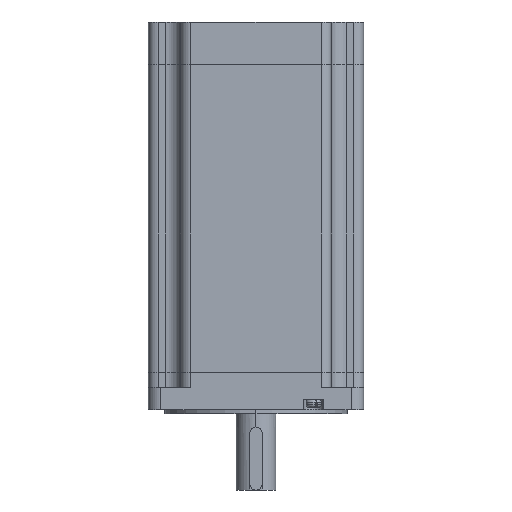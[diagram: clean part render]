
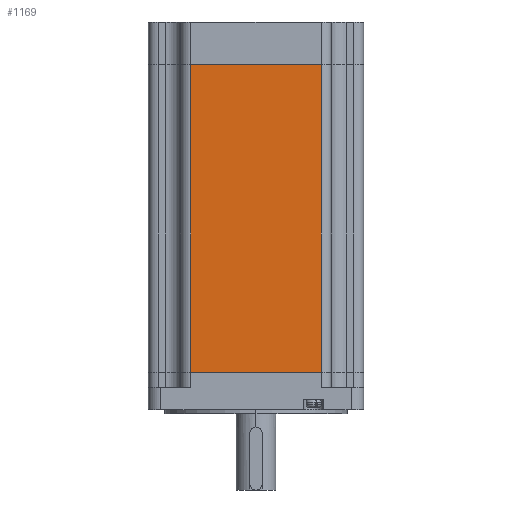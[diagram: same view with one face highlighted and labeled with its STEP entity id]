
A CAD part, left-side view. The second image highlights one B-rep face of the part: STEP entity #1169.
In plain terms, the highlighted planar face has unit normal (-1, 0, 0).
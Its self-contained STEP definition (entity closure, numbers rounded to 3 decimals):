
#1134 = EDGE_LOOP ( 'NONE', ( #1154, #1205, #1316, #1291 ) ) ;
#1135 = VERTEX_POINT ( 'NONE', #3804 ) ;
#1153 = EDGE_CURVE ( 'NONE', #1171, #1204, #3890, .T. ) ;
#1154 = ORIENTED_EDGE ( 'NONE', *, *, #1207, .T. ) ;
#1169 = ADVANCED_FACE ( 'NONE', ( #3943 ), #3972, .F. ) ;
#1170 = VERTEX_POINT ( 'NONE', #3948 ) ;
#1171 = VERTEX_POINT ( 'NONE', #3921 ) ;
#1204 = VERTEX_POINT ( 'NONE', #3998 ) ;
#1205 = ORIENTED_EDGE ( 'NONE', *, *, #1206, .F. ) ;
#1206 = EDGE_CURVE ( 'NONE', #1170, #1135, #3997, .T. ) ;
#1207 = EDGE_CURVE ( 'NONE', #1204, #1135, #3933, .T. ) ;
#1240 = EDGE_CURVE ( 'NONE', #1171, #1170, #4041, .T. ) ;
#1291 = ORIENTED_EDGE ( 'NONE', *, *, #1153, .T. ) ;
#1316 = ORIENTED_EDGE ( 'NONE', *, *, #1240, .F. ) ;
#3804 = CARTESIAN_POINT ( 'NONE',  ( -43., -26., 0. ) ) ;
#3879 = VECTOR ( 'NONE', #3880, 1000. ) ;
#3880 = DIRECTION ( 'NONE',  ( 0., 0., -1. ) ) ;
#3881 = CARTESIAN_POINT ( 'NONE',  ( -43., 26., 123. ) ) ;
#3890 = LINE ( 'NONE', #3881, #3879 ) ;
#3914 = DIRECTION ( 'NONE',  ( 0., 0., -1. ) ) ;
#3915 = CARTESIAN_POINT ( 'NONE',  ( -43., -26., 123. ) ) ;
#3921 = CARTESIAN_POINT ( 'NONE',  ( -43., 26., 123. ) ) ;
#3933 = LINE ( 'NONE', #3985, #4007 ) ;
#3934 = VECTOR ( 'NONE', #3914, 1000. ) ;
#3943 = FACE_OUTER_BOUND ( 'NONE', #1134, .T. ) ;
#3948 = CARTESIAN_POINT ( 'NONE',  ( -43., -26., 123. ) ) ;
#3972 = PLANE ( 'NONE',  #4016 ) ;
#3984 = DIRECTION ( 'NONE',  ( 0., -1., 0. ) ) ;
#3985 = CARTESIAN_POINT ( 'NONE',  ( -43., 26., 0. ) ) ;
#3997 = LINE ( 'NONE', #3915, #3934 ) ;
#3998 = CARTESIAN_POINT ( 'NONE',  ( -43., 26., 0. ) ) ;
#4003 = DIRECTION ( 'NONE',  ( 0., 0., -1. ) ) ;
#4004 = DIRECTION ( 'NONE',  ( 1., 0., 0. ) ) ;
#4007 = VECTOR ( 'NONE', #3984, 1000. ) ;
#4013 = CARTESIAN_POINT ( 'NONE',  ( -43., 26., 123. ) ) ;
#4016 = AXIS2_PLACEMENT_3D ( 'NONE', #4013, #4004, #4003 ) ;
#4022 = CARTESIAN_POINT ( 'NONE',  ( -43., 26., 123. ) ) ;
#4038 = VECTOR ( 'NONE', #4040, 1000. ) ;
#4040 = DIRECTION ( 'NONE',  ( 0., -1., 0. ) ) ;
#4041 = LINE ( 'NONE', #4022, #4038 ) ;
